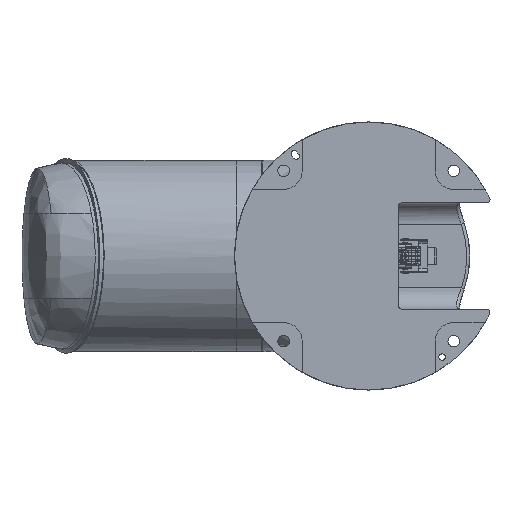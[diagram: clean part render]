
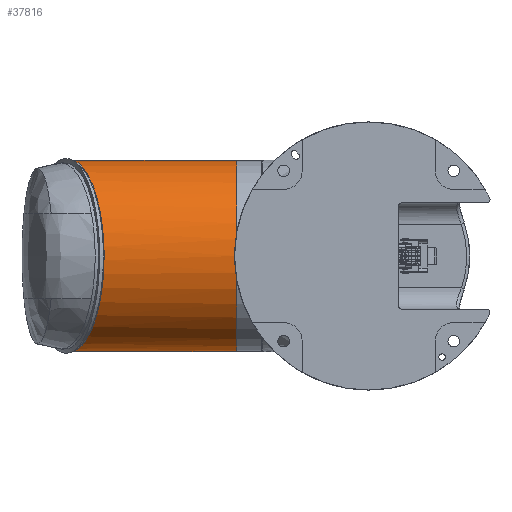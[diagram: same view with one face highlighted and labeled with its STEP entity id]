
A CAD part, front view. The second image highlights one B-rep face of the part: STEP entity #37816.
In plain terms, the highlighted cylindrical face has radius 90 mm (diameter 180 mm), a partial arc.
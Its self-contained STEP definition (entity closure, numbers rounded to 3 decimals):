
#1860 = FACE_OUTER_BOUND ( 'NONE', #14949, .T. ) ;
#3302 = ORIENTED_EDGE ( 'NONE', *, *, #49122, .T. ) ;
#4195 = B_SPLINE_CURVE_WITH_KNOTS ( 'NONE', 3,
 ( #134572, #116295, #22633, #58575 ),
 .UNSPECIFIED., .F., .F.,
 ( 4, 4 ),
 ( 0., 1. ),
 .UNSPECIFIED. ) ;
#5396 = B_SPLINE_CURVE_WITH_KNOTS ( 'NONE', 3,
 ( #139626, #117877, #25254, #24749 ),
 .UNSPECIFIED., .F., .F.,
 ( 4, 4 ),
 ( 0., 1. ),
 .UNSPECIFIED. ) ;
#6380 = CARTESIAN_POINT ( 'NONE',  ( -0.57, 0., 90. ) ) ;
#9041 = CARTESIAN_POINT ( 'NONE',  ( -4.9, 0., 90. ) ) ;
#13055 = ORIENTED_EDGE ( 'NONE', *, *, #145618, .T. ) ;
#13091 = CARTESIAN_POINT ( 'NONE',  ( -0.57, 0., 0. ) ) ;
#13195 = CARTESIAN_POINT ( 'NONE',  ( 131.054, -52.721, -90. ) ) ;
#14677 = CARTESIAN_POINT ( 'NONE',  ( 150.243, 0., -90. ) ) ;
#14814 = AXIS2_PLACEMENT_3D ( 'NONE', #64917, #145878, #149348 ) ;
#14949 = EDGE_LOOP ( 'NONE', ( #79332, #51078, #3302, #32797, #21480, #121040, #89515, #49888, #13055 ) ) ;
#18422 = VERTEX_POINT ( 'NONE', #49722 ) ;
#21137 = CARTESIAN_POINT ( 'NONE',  ( -2.013, -1.666, 89.988 ) ) ;
#21480 = ORIENTED_EDGE ( 'NONE', *, *, #116322, .T. ) ;
#22633 = CARTESIAN_POINT ( 'NONE',  ( -6.9, 0., 90. ) ) ;
#23703 = B_SPLINE_CURVE_WITH_KNOTS ( 'NONE', 3,
 ( #124471, #66238, #122488, #64782 ),
 .UNSPECIFIED., .F., .F.,
 ( 4, 4 ),
 ( 0., 1. ),
 .UNSPECIFIED. ) ;
#23841 = CARTESIAN_POINT ( 'NONE',  ( -0.57, -2.5, 89.965 ) ) ;
#24749 = CARTESIAN_POINT ( 'NONE',  ( -0.57, 0., 90. ) ) ;
#24945 = DIRECTION ( 'NONE',  ( 1., 0., 0. ) ) ;
#25254 = CARTESIAN_POINT ( 'NONE',  ( 28.287, 0., 90. ) ) ;
#25385 = CARTESIAN_POINT ( 'NONE',  ( 86., 0., -90. ) ) ;
#29579 = AXIS2_PLACEMENT_3D ( 'NONE', #119545, #24945, #105904 ) ;
#32797 = ORIENTED_EDGE ( 'NONE', *, *, #110281, .T. ) ;
#33162 = EDGE_CURVE ( 'NONE', #18422, #47891, #23703, .T. ) ;
#37816 = ADVANCED_FACE ( 'NONE', ( #1860 ), #77877, .T. ) ;
#40932 = VERTEX_POINT ( 'NONE', #145473 ) ;
#47891 = VERTEX_POINT ( 'NONE', #115526 ) ;
#48045 = CARTESIAN_POINT ( 'NONE',  ( 117.485, -90., -52.721 ) ) ;
#49035 = CARTESIAN_POINT ( 'NONE',  ( 117.485, -90., 52.721 ) ) ;
#49122 = EDGE_CURVE ( 'NONE', #80122, #40932, #52980, .T. ) ;
#49722 = CARTESIAN_POINT ( 'NONE',  ( -7.9, 0., -90. ) ) ;
#49888 = ORIENTED_EDGE ( 'NONE', *, *, #92526, .T. ) ;
#51078 = ORIENTED_EDGE ( 'NONE', *, *, #99904, .T. ) ;
#52179 = EDGE_CURVE ( 'NONE', #135035, #87737, #95385, .T. ) ;
#52980 =( BOUNDED_CURVE ( )  B_SPLINE_CURVE ( 3, ( #14677, #13195, #48045, #82485, #49035, #71824, #130543 ),
 .UNSPECIFIED., .F., .F. ) 
 B_SPLINE_CURVE_WITH_KNOTS ( ( 4, 3, 4 ),
 ( 1.571, 3.142, 4.712 ),
 .UNSPECIFIED. ) 
 CURVE ( )  GEOMETRIC_REPRESENTATION_ITEM ( )  RATIONAL_B_SPLINE_CURVE ( ( 1., 0.805, 0.805, 1., 0.805, 0.805, 1. ) ) 
 REPRESENTATION_ITEM ( '' )  );
#55455 = VERTEX_POINT ( 'NONE', #129382 ) ;
#56637 = CARTESIAN_POINT ( 'NONE',  ( 150.243, 0., 90. ) ) ;
#57136 = CARTESIAN_POINT ( 'NONE',  ( 107.414, 0., 90. ) ) ;
#57575 = VERTEX_POINT ( 'NONE', #123128 ) ;
#58367 = B_SPLINE_CURVE_WITH_KNOTS ( 'NONE', 3,
 ( #25385, #139771, #129651, #84054 ),
 .UNSPECIFIED., .F., .F.,
 ( 4, 4 ),
 ( 0., 1. ),
 .UNSPECIFIED. ) ;
#58575 = CARTESIAN_POINT ( 'NONE',  ( -7.9, 0., 90. ) ) ;
#64782 = CARTESIAN_POINT ( 'NONE',  ( 86., 0., -90. ) ) ;
#64917 = CARTESIAN_POINT ( 'NONE',  ( -7.9, 0., 0. ) ) ;
#66238 = CARTESIAN_POINT ( 'NONE',  ( 23.4, 0., -90. ) ) ;
#66703 = CARTESIAN_POINT ( 'NONE',  ( -0.57, -2.5, 89.965 ) ) ;
#71063 = EDGE_CURVE ( 'NONE', #87737, #55455, #142948, .T. ) ;
#71824 = CARTESIAN_POINT ( 'NONE',  ( 131.054, -52.721, 90. ) ) ;
#73087 = CARTESIAN_POINT ( 'NONE',  ( 150.243, 0., -90. ) ) ;
#77877 = CYLINDRICAL_SURFACE ( 'NONE', #14814, 90. ) ;
#78940 = CIRCLE ( 'NONE', #29579, 90. ) ;
#79238 = AXIS2_PLACEMENT_3D ( 'NONE', #13091, #115809, #93538 ) ;
#79332 = ORIENTED_EDGE ( 'NONE', *, *, #33162, .T. ) ;
#79809 = B_SPLINE_CURVE_WITH_KNOTS ( 'NONE', 3,
 ( #56637, #149254, #57136, #92041 ),
 .UNSPECIFIED., .F., .F.,
 ( 4, 4 ),
 ( 0., 1. ),
 .UNSPECIFIED. ) ;
#80122 = VERTEX_POINT ( 'NONE', #73087 ) ;
#82485 = CARTESIAN_POINT ( 'NONE',  ( 117.485, -90., 0. ) ) ;
#84054 = CARTESIAN_POINT ( 'NONE',  ( 150.243, 0., -90. ) ) ;
#87737 = VERTEX_POINT ( 'NONE', #23841 ) ;
#89515 = ORIENTED_EDGE ( 'NONE', *, *, #71063, .T. ) ;
#92041 = CARTESIAN_POINT ( 'NONE',  ( 86., 0., 90. ) ) ;
#92526 = EDGE_CURVE ( 'NONE', #55455, #95797, #4195, .T. ) ;
#93538 = DIRECTION ( 'NONE',  ( 0., 0., -1. ) ) ;
#95385 = CIRCLE ( 'NONE', #79238, 90. ) ;
#95797 = VERTEX_POINT ( 'NONE', #137603 ) ;
#99904 = EDGE_CURVE ( 'NONE', #47891, #80122, #58367, .T. ) ;
#105904 = DIRECTION ( 'NONE',  ( 0., 0., -1. ) ) ;
#110281 = EDGE_CURVE ( 'NONE', #40932, #57575, #79809, .T. ) ;
#114271 = CARTESIAN_POINT ( 'NONE',  ( -3.456, -0.833, 90. ) ) ;
#115526 = CARTESIAN_POINT ( 'NONE',  ( 86., 0., -90. ) ) ;
#115809 = DIRECTION ( 'NONE',  ( 1., 0., 0. ) ) ;
#116295 = CARTESIAN_POINT ( 'NONE',  ( -5.9, 0., 90. ) ) ;
#116322 = EDGE_CURVE ( 'NONE', #57575, #135035, #5396, .T. ) ;
#117877 = CARTESIAN_POINT ( 'NONE',  ( 57.143, 0., 90. ) ) ;
#119545 = CARTESIAN_POINT ( 'NONE',  ( -7.9, 0., 0. ) ) ;
#121040 = ORIENTED_EDGE ( 'NONE', *, *, #52179, .T. ) ;
#122488 = CARTESIAN_POINT ( 'NONE',  ( 54.7, 0., -90. ) ) ;
#123128 = CARTESIAN_POINT ( 'NONE',  ( 86., 0., 90. ) ) ;
#124471 = CARTESIAN_POINT ( 'NONE',  ( -7.9, 0., -90. ) ) ;
#129382 = CARTESIAN_POINT ( 'NONE',  ( -4.9, 0., 90. ) ) ;
#129651 = CARTESIAN_POINT ( 'NONE',  ( 128.829, 0., -90. ) ) ;
#130543 = CARTESIAN_POINT ( 'NONE',  ( 150.243, 0., 90. ) ) ;
#134572 = CARTESIAN_POINT ( 'NONE',  ( -4.9, 0., 90. ) ) ;
#135035 = VERTEX_POINT ( 'NONE', #6380 ) ;
#137603 = CARTESIAN_POINT ( 'NONE',  ( -7.9, 0., 90. ) ) ;
#139626 = CARTESIAN_POINT ( 'NONE',  ( 86., 0., 90. ) ) ;
#139771 = CARTESIAN_POINT ( 'NONE',  ( 107.414, 0., -90. ) ) ;
#142948 =( BOUNDED_CURVE ( )  B_SPLINE_CURVE ( 3, ( #66703, #21137, #114271, #9041 ),
 .UNSPECIFIED., .F., .F. ) 
 B_SPLINE_CURVE_WITH_KNOTS ( ( 4, 4 ),
 ( 1.543, 1.571 ),
 .UNSPECIFIED. ) 
 CURVE ( )  GEOMETRIC_REPRESENTATION_ITEM ( )  RATIONAL_B_SPLINE_CURVE ( ( 1., 1., 1., 1. ) ) 
 REPRESENTATION_ITEM ( '' )  );
#145473 = CARTESIAN_POINT ( 'NONE',  ( 150.243, 0., 90. ) ) ;
#145618 = EDGE_CURVE ( 'NONE', #95797, #18422, #78940, .T. ) ;
#145878 = DIRECTION ( 'NONE',  ( 1., 0., 0. ) ) ;
#149254 = CARTESIAN_POINT ( 'NONE',  ( 128.829, 0., 90. ) ) ;
#149348 = DIRECTION ( 'NONE',  ( 0., 0., -1. ) ) ;
